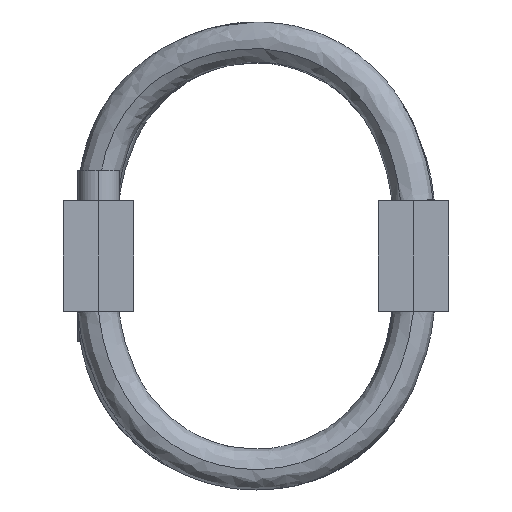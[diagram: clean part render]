
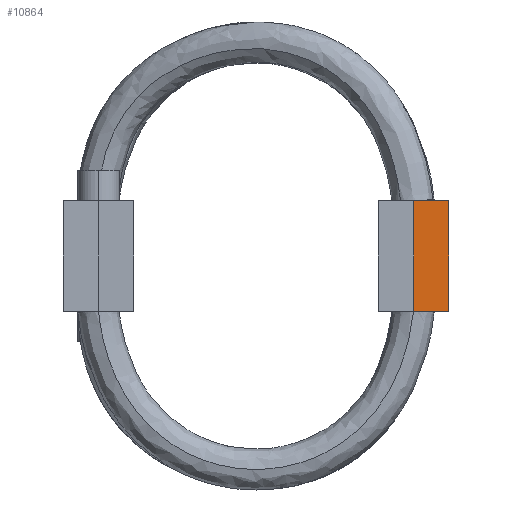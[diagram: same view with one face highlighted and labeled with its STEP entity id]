
A CAD part, left-side view. The second image highlights one B-rep face of the part: STEP entity #10864.
In plain terms, the highlighted planar face has unit normal (-1, 0, 0).
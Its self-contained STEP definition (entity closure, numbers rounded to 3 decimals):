
#206 = DIRECTION ( 'NONE',  ( -1., 0., 0. ) ) ;
#2020 = DIRECTION ( 'NONE',  ( 0., 1., 0. ) ) ;
#2045 = EDGE_CURVE ( 'NONE', #23830, #19376, #12307, .T. ) ;
#3654 = VECTOR ( 'NONE', #2020, 1000. ) ;
#3683 = CARTESIAN_POINT ( 'NONE',  ( -84.6, -44.5, -12.7 ) ) ;
#3763 = DIRECTION ( 'NONE',  ( 0., 0., 1. ) ) ;
#5149 = CARTESIAN_POINT ( 'NONE',  ( -84.6, -44.5, -12.7 ) ) ;
#5705 = DIRECTION ( 'NONE',  ( 0., -1., 0. ) ) ;
#5953 = CARTESIAN_POINT ( 'NONE',  ( -84.6, -44.5, 12.7 ) ) ;
#6172 = LINE ( 'NONE', #5149, #16193 ) ;
#6951 = VECTOR ( 'NONE', #7618, 1000. ) ;
#7618 = DIRECTION ( 'NONE',  ( 0., 0., -1. ) ) ;
#8961 = LINE ( 'NONE', #5953, #3654 ) ;
#9402 = CARTESIAN_POINT ( 'NONE',  ( -84.6, -44.5, 12.7 ) ) ;
#9607 = CARTESIAN_POINT ( 'NONE',  ( -84.6, -36.35, -12.7 ) ) ;
#10092 = CARTESIAN_POINT ( 'NONE',  ( -84.6, -40.425, 0. ) ) ;
#10864 = ADVANCED_FACE ( 'NONE', ( #23374 ), #20111, .T. ) ;
#12008 = ORIENTED_EDGE ( 'NONE', *, *, #17184, .T. ) ;
#12307 = LINE ( 'NONE', #9607, #6951 ) ;
#12913 = EDGE_LOOP ( 'NONE', ( #12008, #18710, #13797, #14610 ) ) ;
#13644 = CARTESIAN_POINT ( 'NONE',  ( -84.6, -44.5, -12.7 ) ) ;
#13797 = ORIENTED_EDGE ( 'NONE', *, *, #23667, .T. ) ;
#14189 = DIRECTION ( 'NONE',  ( 0., 0., 1. ) ) ;
#14610 = ORIENTED_EDGE ( 'NONE', *, *, #17122, .T. ) ;
#16193 = VECTOR ( 'NONE', #3763, 1000. ) ;
#17122 = EDGE_CURVE ( 'NONE', #21668, #18237, #6172, .T. ) ;
#17184 = EDGE_CURVE ( 'NONE', #18237, #23830, #8961, .T. ) ;
#17223 = VECTOR ( 'NONE', #5705, 1000. ) ;
#18237 = VERTEX_POINT ( 'NONE', #9402 ) ;
#18710 = ORIENTED_EDGE ( 'NONE', *, *, #2045, .T. ) ;
#19087 = AXIS2_PLACEMENT_3D ( 'NONE', #10092, #206, #14189 ) ;
#19376 = VERTEX_POINT ( 'NONE', #24005 ) ;
#20111 = PLANE ( 'NONE',  #19087 ) ;
#21668 = VERTEX_POINT ( 'NONE', #13644 ) ;
#22527 = LINE ( 'NONE', #3683, #17223 ) ;
#23374 = FACE_OUTER_BOUND ( 'NONE', #12913, .T. ) ;
#23667 = EDGE_CURVE ( 'NONE', #19376, #21668, #22527, .T. ) ;
#23830 = VERTEX_POINT ( 'NONE', #25152 ) ;
#24005 = CARTESIAN_POINT ( 'NONE',  ( -84.6, -36.35, -12.7 ) ) ;
#25152 = CARTESIAN_POINT ( 'NONE',  ( -84.6, -36.35, 12.7 ) ) ;
